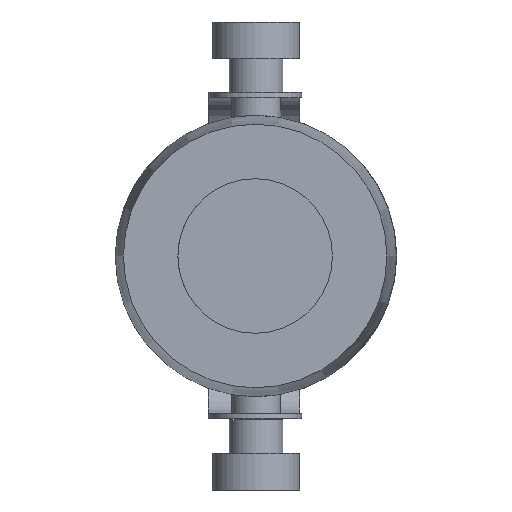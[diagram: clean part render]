
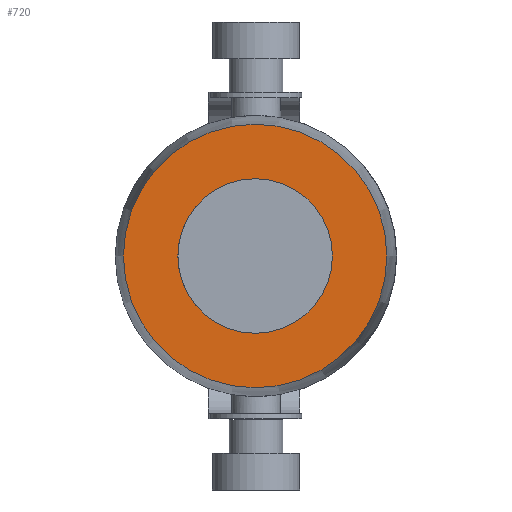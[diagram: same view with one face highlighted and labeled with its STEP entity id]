
A CAD part, front view. The second image highlights one B-rep face of the part: STEP entity #720.
In plain terms, the highlighted planar face has unit normal (-0.004, -1, 0) as drawn and (1, -0.006, 0) by its records, which use the part's own axes.
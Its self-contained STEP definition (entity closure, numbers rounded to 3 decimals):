
#44=FACE_BOUND('',#168,.T.);
#71=PLANE('',#839);
#115=FACE_OUTER_BOUND('',#167,.T.);
#167=EDGE_LOOP('',(#652,#653));
#168=EDGE_LOOP('',(#654));
#294=CIRCLE('',#820,22.);
#305=CIRCLE('',#840,37.502);
#306=CIRCLE('',#841,37.502);
#353=VERTEX_POINT('',#1240);
#369=VERTEX_POINT('',#1356);
#370=VERTEX_POINT('',#1357);
#443=EDGE_CURVE('',#353,#353,#294,.T.);
#465=EDGE_CURVE('',#369,#370,#305,.T.);
#466=EDGE_CURVE('',#370,#369,#306,.T.);
#652=ORIENTED_EDGE('',*,*,#465,.F.);
#653=ORIENTED_EDGE('',*,*,#466,.F.);
#654=ORIENTED_EDGE('',*,*,#443,.T.);
#720=ADVANCED_FACE('',(#115,#44),#71,.F.);
#820=AXIS2_PLACEMENT_3D('',#1241,#1027,#1028);
#839=AXIS2_PLACEMENT_3D('',#1355,#1071,#1072);
#840=AXIS2_PLACEMENT_3D('',#1358,#1073,#1074);
#841=AXIS2_PLACEMENT_3D('',#1359,#1075,#1076);
#1027=DIRECTION('center_axis',(-1.,0.006,0.));
#1028=DIRECTION('ref_axis',(0.006,1.,0.));
#1071=DIRECTION('center_axis',(-1.,0.006,0.));
#1072=DIRECTION('ref_axis',(0.,0.,
1.));
#1073=DIRECTION('center_axis',(-1.,0.006,0.));
#1074=DIRECTION('ref_axis',(0.,0.,-1.));
#1075=DIRECTION('center_axis',(-1.,0.006,0.));
#1076=DIRECTION('ref_axis',(0.,0.,-1.));
#1240=CARTESIAN_POINT('',(69.401,-45.604,0.));
#1241=CARTESIAN_POINT('Origin',(69.526,-23.604,0.));
#1355=CARTESIAN_POINT('Origin',(69.526,-23.604,0.));
#1356=CARTESIAN_POINT('',(69.526,-23.604,-37.502));
#1357=CARTESIAN_POINT('',(69.74,13.897,0.));
#1358=CARTESIAN_POINT('Origin',(69.526,-23.604,0.));
#1359=CARTESIAN_POINT('Origin',(69.526,-23.604,0.));
